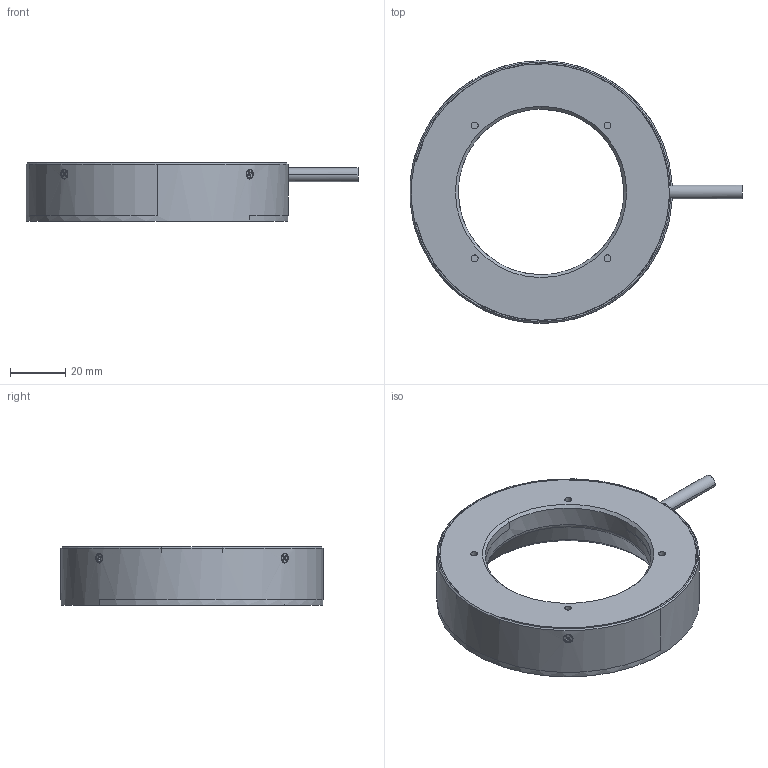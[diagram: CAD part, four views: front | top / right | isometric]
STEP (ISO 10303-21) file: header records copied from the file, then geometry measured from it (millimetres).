
FILE_DESCRIPTION((''),'2;1');
FILE_NAME('MV-LRDS-H-95-30-W','2022-09-02T14:48:27',('qiaoxuan5'),(''),'CREO PARAMETRIC BY PTC INC, 2020044','CREO PARAMETRIC BY PTC INC, 2020044','');
FILE_SCHEMA(('CONFIG_CONTROL_DESIGN'));
Length unit declared in the file: metre
Products named in the file (1): MV-LRDS-H-95-30-W
Bounding box: 120.13 x 95 x 21 mm (x, y, z)
Volume: 80802.6 mm3; surface area: 20460.8 mm2
Topology: 1 solids, 9 shells, 446 faces, 1106 edges, 680 vertices
Faces by surface type: plane 262, cylinder 120, cone 60, torus 4
Entity records: 13478 total; most frequent: CARTESIAN_POINT 2916, ORIENTED_EDGE 2196, DIRECTION 2156, EDGE_CURVE 1098, AXIS2_PLACEMENT_3D 732, VECTOR 692, LINE 692, VERTEX_POINT 680
